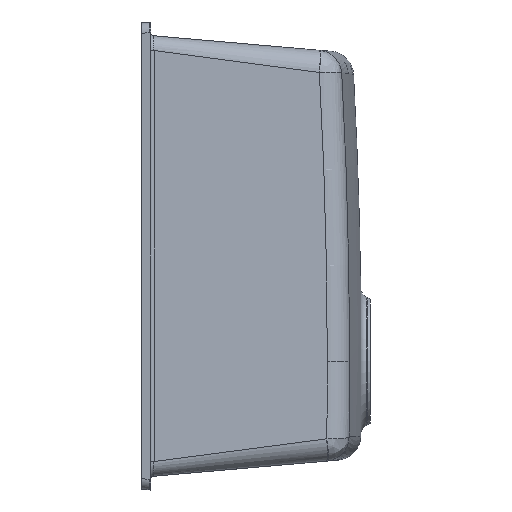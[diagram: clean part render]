
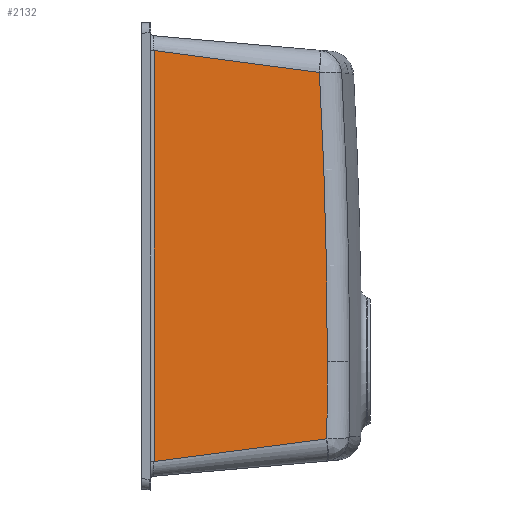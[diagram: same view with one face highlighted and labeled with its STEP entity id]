
A CAD part, left-side view. The second image highlights one B-rep face of the part: STEP entity #2132.
In plain terms, the highlighted planar face has unit normal (-0.996, -0.087, 0).
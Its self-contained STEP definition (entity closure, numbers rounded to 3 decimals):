
#3 = DIRECTION ( 'NONE',  ( 0.087, -0.996, 0. ) ) ;
#10 = DIRECTION ( 'NONE',  ( -0.996, -0.087, 0. ) ) ;
#38 = PLANE ( 'NONE',  #1026 ) ;
#69 = CARTESIAN_POINT ( 'NONE',  ( 26.895, -0.697, -435.27 ) ) ;
#97 = CARTESIAN_POINT ( 'NONE',  ( 27.985, -13.151, -41.986 ) ) ;
#277 = CARTESIAN_POINT ( 'NONE',  ( 42.239, -176.08, -334.07 ) ) ;
#332 = CARTESIAN_POINT ( 'NONE',  ( 42.183, -175.437, -407.032 ) ) ;
#371 = B_SPLINE_CURVE_WITH_KNOTS ( 'NONE', 3,
 ( #1103, #5969, #6605, #2450 ),
 .UNSPECIFIED., .F., .F.,
 ( 4, 4 ),
 ( 0., 0. ),
 .UNSPECIFIED. ) ;
#545 = CIRCLE ( 'NONE', #2331, 4926.399 ) ;
#669 = CARTESIAN_POINT ( 'NONE',  ( 32.509, -64.855, -50.167 ) ) ;
#943 = CARTESIAN_POINT ( 'NONE',  ( 37.433, -121.138, -411.782 ) ) ;
#1026 = AXIS2_PLACEMENT_3D ( 'NONE', #69, #10, #3 ) ;
#1103 = CARTESIAN_POINT ( 'NONE',  ( 42.192, -175.542, -407.02 ) ) ;
#1156 = EDGE_CURVE ( 'NONE', #3632, #7255, #545, .T. ) ;
#1354 = VERTEX_POINT ( 'NONE', #4062 ) ;
#1552 = CARTESIAN_POINT ( 'NONE',  ( 27.985, -13.151, -428.32 ) ) ;
#1842 = CARTESIAN_POINT ( 'NONE',  ( 41.587, -168.625, -62.642 ) ) ;
#1953 = VERTEX_POINT ( 'NONE', #6686 ) ;
#2083 = CARTESIAN_POINT ( 'NONE',  ( 41.586, -168.609, -62.641 ) ) ;
#2115 = CARTESIAN_POINT ( 'NONE',  ( 41.585, -168.601, -62.64 ) ) ;
#2132 = ADVANCED_FACE ( 'NONE', ( #7866 ), #38, .T. ) ;
#2331 = AXIS2_PLACEMENT_3D ( 'NONE', #4852, #5072, #5069 ) ;
#2382 = EDGE_CURVE ( 'NONE', #1953, #7132, #7170, .T. ) ;
#2450 = CARTESIAN_POINT ( 'NONE',  ( 42.183, -175.437, -407.032 ) ) ;
#2675 = CARTESIAN_POINT ( 'NONE',  ( 42.192, -175.542, -407.02 ) ) ;
#2679 = EDGE_LOOP ( 'NONE', ( #6662, #6010, #6888, #6606, #6631, #6034, #6137 ) ) ;
#3075 = EDGE_CURVE ( 'NONE', #1953, #7636, #3356, .T. ) ;
#3356 = B_SPLINE_CURVE_WITH_KNOTS ( 'NONE', 3,
 ( #97, #669, #7981, #7411 ),
 .UNSPECIFIED., .F., .F.,
 ( 4, 4 ),
 ( 0.348, 1. ),
 .UNSPECIFIED. ) ;
#3521 = B_SPLINE_CURVE_WITH_KNOTS ( 'NONE', 3,
 ( #2115, #2083, #6444, #1842 ),
 .UNSPECIFIED., .F., .F.,
 ( 4, 4 ),
 ( 0., 0. ),
 .UNSPECIFIED. ) ;
#3536 = EDGE_CURVE ( 'NONE', #7636, #1354, #3521, .T. ) ;
#3614 = AXIS2_PLACEMENT_3D ( 'NONE', #7786, #3806, #8377 ) ;
#3632 = VERTEX_POINT ( 'NONE', #277 ) ;
#3644 = CIRCLE ( 'NONE', #3614, 4926.399 ) ;
#3806 = DIRECTION ( 'NONE',  ( 0.996, 0.087, 0. ) ) ;
#4062 = CARTESIAN_POINT ( 'NONE',  ( 41.587, -168.625, -62.642 ) ) ;
#4852 = CARTESIAN_POINT ( 'NONE',  ( -387.125, 4731.573, -334.07 ) ) ;
#5069 = DIRECTION ( 'NONE',  ( 0.087, -0.996, 0. ) ) ;
#5072 = DIRECTION ( 'NONE',  ( 0.996, 0.087, 0. ) ) ;
#5459 = CARTESIAN_POINT ( 'NONE',  ( 27.985, -13.151, -428.888 ) ) ;
#5481 = DIRECTION ( 'NONE',  ( 0., 0., -1. ) ) ;
#5791 = EDGE_CURVE ( 'NONE', #7255, #7065, #371, .T. ) ;
#5814 = CARTESIAN_POINT ( 'NONE',  ( 32.708, -67.134, -419.926 ) ) ;
#5969 = CARTESIAN_POINT ( 'NONE',  ( 42.189, -175.507, -407.025 ) ) ;
#6010 = ORIENTED_EDGE ( 'NONE', *, *, #2382, .T. ) ;
#6034 = ORIENTED_EDGE ( 'NONE', *, *, #8181, .F. ) ;
#6137 = ORIENTED_EDGE ( 'NONE', *, *, #3536, .F. ) ;
#6176 = CARTESIAN_POINT ( 'NONE',  ( 42.183, -175.437, -407.032 ) ) ;
#6234 = CARTESIAN_POINT ( 'NONE',  ( 27.985, -13.151, -428.32 ) ) ;
#6444 = CARTESIAN_POINT ( 'NONE',  ( 41.587, -168.617, -62.642 ) ) ;
#6605 = CARTESIAN_POINT ( 'NONE',  ( 42.186, -175.472, -407.029 ) ) ;
#6606 = ORIENTED_EDGE ( 'NONE', *, *, #5791, .F. ) ;
#6631 = ORIENTED_EDGE ( 'NONE', *, *, #1156, .F. ) ;
#6662 = ORIENTED_EDGE ( 'NONE', *, *, #3075, .F. ) ;
#6686 = CARTESIAN_POINT ( 'NONE',  ( 27.985, -13.151, -41.986 ) ) ;
#6888 = ORIENTED_EDGE ( 'NONE', *, *, #7795, .F. ) ;
#6965 = CARTESIAN_POINT ( 'NONE',  ( 41.585, -168.601, -62.64 ) ) ;
#7065 = VERTEX_POINT ( 'NONE', #6176 ) ;
#7132 = VERTEX_POINT ( 'NONE', #6234 ) ;
#7157 = VECTOR ( 'NONE', #5481, 1000. ) ;
#7170 = LINE ( 'NONE', #5459, #7157 ) ;
#7223 = B_SPLINE_CURVE_WITH_KNOTS ( 'NONE', 3,
 ( #332, #943, #5814, #1552 ),
 .UNSPECIFIED., .F., .F.,
 ( 4, 4 ),
 ( 0., 0.654 ),
 .UNSPECIFIED. ) ;
#7255 = VERTEX_POINT ( 'NONE', #2675 ) ;
#7411 = CARTESIAN_POINT ( 'NONE',  ( 41.585, -168.601, -62.64 ) ) ;
#7636 = VERTEX_POINT ( 'NONE', #6965 ) ;
#7786 = CARTESIAN_POINT ( 'NONE',  ( -387.125, 4731.573, -334.07 ) ) ;
#7795 = EDGE_CURVE ( 'NONE', #7065, #7132, #7223, .T. ) ;
#7866 = FACE_OUTER_BOUND ( 'NONE', #2679, .T. ) ;
#7981 = CARTESIAN_POINT ( 'NONE',  ( 37.034, -116.582, -58.089 ) ) ;
#8181 = EDGE_CURVE ( 'NONE', #1354, #3632, #3644, .T. ) ;
#8377 = DIRECTION ( 'NONE',  ( 0.087, -0.996, 0. ) ) ;
